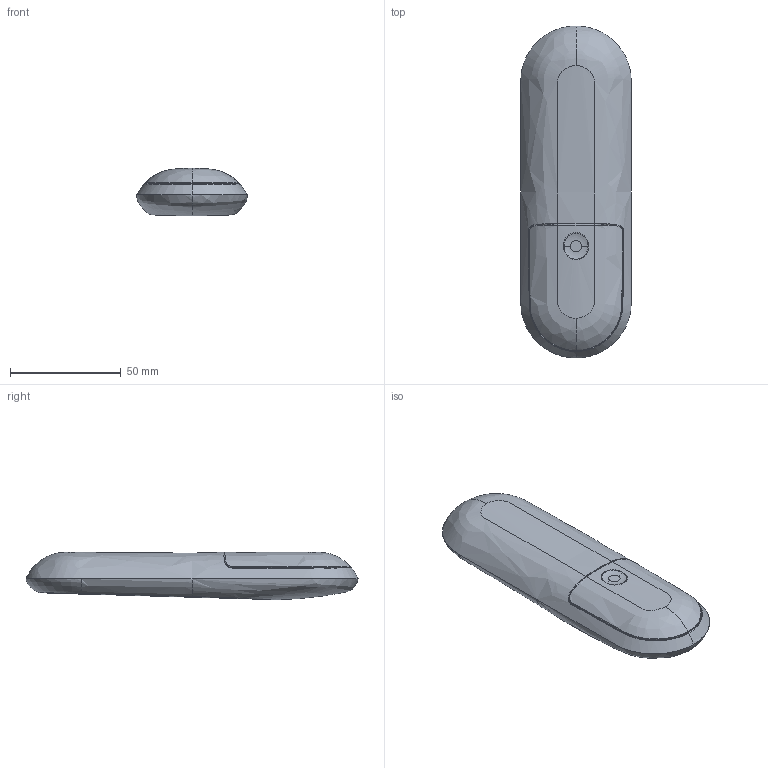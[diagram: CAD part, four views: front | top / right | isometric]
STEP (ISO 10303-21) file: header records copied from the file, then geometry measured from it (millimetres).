
FILE_DESCRIPTION (( 'STEP AP203' ), '1' );
FILE_NAME ('TFH27.STEP', '2019-04-25T10:20:36', ( '' ), ( '' ), 'SwSTEP 2.0', 'SolidWorks 2015', '' );
FILE_SCHEMA (( 'CONFIG_CONTROL_DESIGN' ));
Length unit declared in the file: millimetre
Products named in the file (9): TFH27-正極?片; TFH27-?極?片; TFH27-ID-DOWN; TFH27; 31605-028-?喀?え; TFH27&28_ID_PCB; TFH27-ID-TOP; TFH27-ID-Battery Cover; TFH27-ID-Nameplate
Assembly tree (8 placements, depth 2):
  TFH27
    TFH27&28_ID_PCB
    TFH27-ID-TOP
    TFH27-ID-DOWN
    TFH27-ID-Nameplate
    TFH27-ID-Battery Cover
    TFH27-正極?片
    TFH27-?極?片
    31605-028-?喀?え
Bounding box: 50 x 150 x 21.41 mm (x, y, z)
Volume: 42760.4 mm3; surface area: 60172.1 mm2
Topology: 8 solids, 8 shells, 1516 faces, 4175 edges, 2764 vertices
Faces by surface type: plane 735, bspline 389, cylinder 352, torus 25, cone 15
Entity records: 137963 total; most frequent: CARTESIAN_POINT 102254, ORIENTED_EDGE 8346, DIRECTION 5608, EDGE_CURVE 4173, VERTEX_POINT 2764, LINE 2148, VECTOR 2148, AXIS2_PLACEMENT_3D 1730
